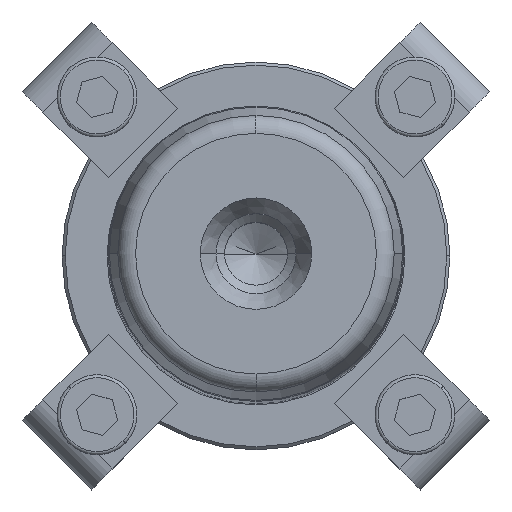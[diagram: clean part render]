
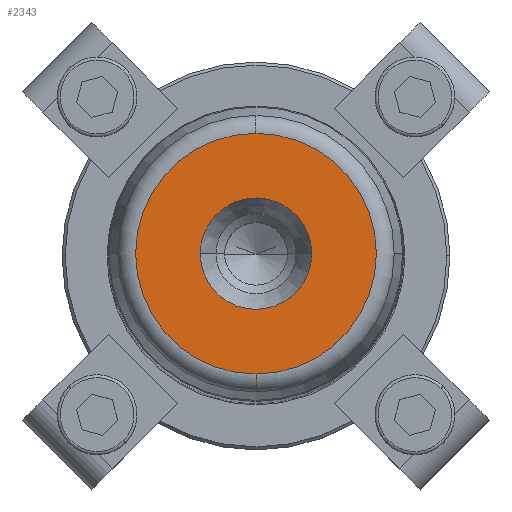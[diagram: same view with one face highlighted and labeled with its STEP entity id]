
A CAD part, top view. The second image highlights one B-rep face of the part: STEP entity #2343.
In plain terms, the highlighted planar face has unit normal (0, 0, 1).
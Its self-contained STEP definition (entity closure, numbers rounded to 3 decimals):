
#431=CARTESIAN_POINT('',(9.05,0.,220.0));
#432=VERTEX_POINT('',#431);
#439=CARTESIAN_POINT('',(-9.05,0.,220.));
#440=VERTEX_POINT('',#439);
#441=CARTESIAN_POINT('',(0.0,0.,220.));
#442=DIRECTION('',(0.0,0.0,1.0));
#443=DIRECTION('',(1.0,0.0,0.0));
#444=AXIS2_PLACEMENT_3D('',#441,#442,#443);
#445=CIRCLE('',#444,9.05);
#446=EDGE_CURVE('',#432,#440,#445,.T.);
#463=CARTESIAN_POINT('',(0.0,-19.554,220.));
#464=VERTEX_POINT('',#463);
#474=CARTESIAN_POINT('',(0.,19.554,220.));
#475=VERTEX_POINT('',#474);
#476=CARTESIAN_POINT('',(0.0,0.,220.));
#477=DIRECTION('',(0.0,0.0,1.0));
#478=DIRECTION('',(1.0,0.0,0.0));
#479=AXIS2_PLACEMENT_3D('',#476,#477,#478);
#480=CIRCLE('',#479,19.554);
#481=EDGE_CURVE('',#475,#464,#480,.T.);
#2304=CARTESIAN_POINT('',(19.554,0.,220.));
#2305=VERTEX_POINT('',#2304);
#2306=CARTESIAN_POINT('',(0.0,0.,220.));
#2307=DIRECTION('',(0.0,0.0,1.0));
#2308=DIRECTION('',(1.0,0.0,0.0));
#2309=AXIS2_PLACEMENT_3D('',#2306,#2307,#2308);
#2310=CIRCLE('',#2309,19.554);
#2311=EDGE_CURVE('',#2305,#475,#2310,.T.);
#2313=CARTESIAN_POINT('',(0.0,0.,220.));
#2314=DIRECTION('',(0.0,0.0,1.0));
#2315=DIRECTION('',(1.0,0.0,0.0));
#2316=AXIS2_PLACEMENT_3D('',#2313,#2314,#2315);
#2317=CIRCLE('',#2316,19.554);
#2318=EDGE_CURVE('',#464,#2305,#2317,.T.);
#2323=CARTESIAN_POINT('',(14.302,0.,220.0));
#2324=DIRECTION('',(0.0,0.0,1.0));
#2325=DIRECTION('',(0.0,-1.0,0.0));
#2326=AXIS2_PLACEMENT_3D('',#2323,#2324,#2325);
#2327=PLANE('',#2326);
#2328=ORIENTED_EDGE('',*,*,#2311,.T.);
#2329=ORIENTED_EDGE('',*,*,#481,.T.);
#2330=ORIENTED_EDGE('',*,*,#2318,.T.);
#2331=EDGE_LOOP('',(#2328,#2329,#2330));
#2332=FACE_OUTER_BOUND('',#2331,.T.);
#2333=ORIENTED_EDGE('',*,*,#446,.F.);
#2334=CARTESIAN_POINT('',(0.0,0.,220.));
#2335=DIRECTION('',(0.0,0.0,1.0));
#2336=DIRECTION('',(1.0,0.0,0.0));
#2337=AXIS2_PLACEMENT_3D('',#2334,#2335,#2336);
#2338=CIRCLE('',#2337,9.05);
#2339=EDGE_CURVE('',#440,#432,#2338,.T.);
#2340=ORIENTED_EDGE('',*,*,#2339,.F.);
#2341=EDGE_LOOP('',(#2333,#2340));
#2342=FACE_BOUND('',#2341,.T.);
#2343=ADVANCED_FACE('',(#2332,#2342),#2327,.T.);
